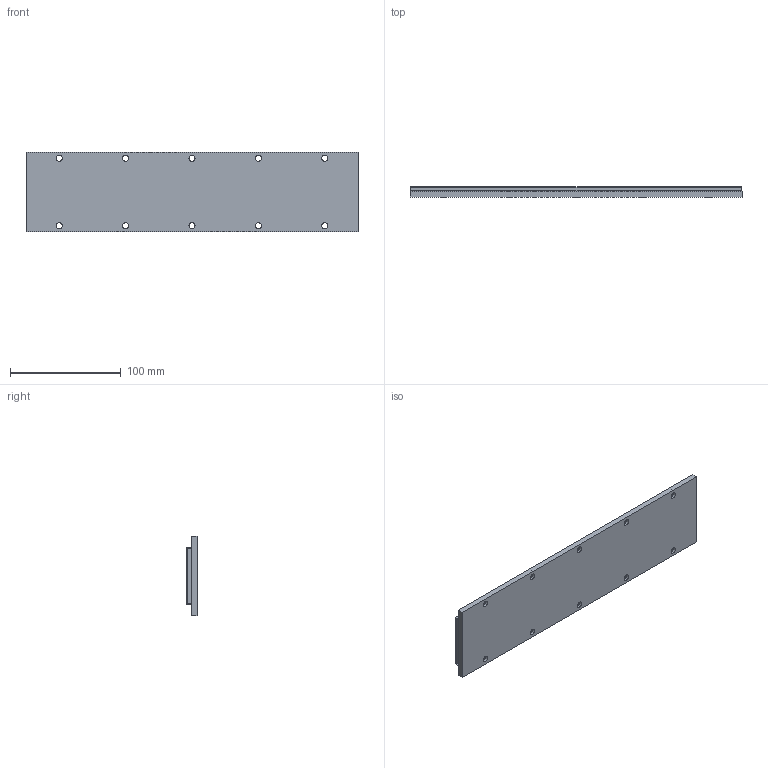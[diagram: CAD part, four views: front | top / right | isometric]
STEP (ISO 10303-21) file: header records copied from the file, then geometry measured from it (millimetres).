
FILE_DESCRIPTION (( 'STEP AP203' ), '1' );
FILE_NAME ('CM300.STEP', '2025-12-28T07:52:26', ( '' ), ( '' ), 'SwSTEP 2.0', 'SolidWorks 2024', '' );
FILE_SCHEMA (( 'CONFIG_CONTROL_DESIGN' ));
Length unit declared in the file: millimetre
Products named in the file (1): CM300
Bounding box: 300 x 9.2 x 72 mm (x, y, z)
Volume: 168478.2 mm3; surface area: 55315.1 mm2
Topology: 1 solids, 1 shells, 103 faces, 248 edges, 160 vertices
Faces by surface type: plane 47, cylinder 44, bspline 12
Entity records: 3343 total; most frequent: CARTESIAN_POINT 820, ORIENTED_EDGE 496, DIRECTION 496, EDGE_CURVE 248, AXIS2_PLACEMENT_3D 180, VERTEX_POINT 160, EDGE_LOOP 136, LINE 136
